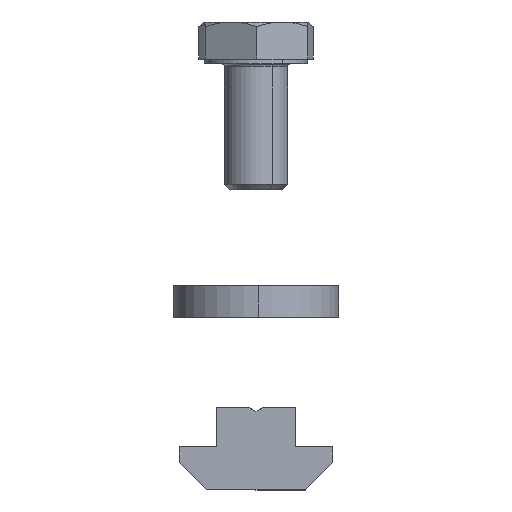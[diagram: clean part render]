
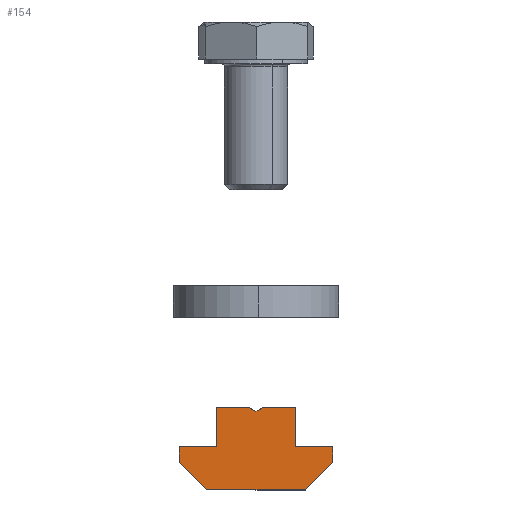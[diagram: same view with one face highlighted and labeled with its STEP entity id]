
A CAD part, left-side view. The second image highlights one B-rep face of the part: STEP entity #154.
In plain terms, the highlighted planar face has unit normal (-1, 0, 0).
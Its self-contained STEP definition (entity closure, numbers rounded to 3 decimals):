
#78 = CARTESIAN_POINT ( 'NONE',  ( 0.401, -11.054, -5.457 ) ) ;
#99 = DIRECTION ( 'NONE',  ( 0., 0., -1. ) ) ;
#112 = CARTESIAN_POINT ( 'NONE',  ( 0.401, -1.304, -6.063 ) ) ;
#113 = CARTESIAN_POINT ( 'NONE',  ( 0.401, -1.304, -0.988 ) ) ;
#128 = CARTESIAN_POINT ( 'NONE',  ( 0.401, -11.054, -7.457 ) ) ;
#131 = DIRECTION ( 'NONE',  ( 0., -0.866, 0.5 ) ) ;
#142 = DIRECTION ( 'NONE',  ( 0., 1., 0. ) ) ;
#154 = ADVANCED_FACE ( 'NONE', ( #2558 ), #290, .T. ) ;
#173 = ORIENTED_EDGE ( 'NONE', *, *, #2189, .T. ) ;
#181 = EDGE_CURVE ( 'NONE', #1968, #2430, #942, .T. ) ;
#204 = ORIENTED_EDGE ( 'NONE', *, *, #2236, .T. ) ;
#255 = LINE ( 'NONE', #1680, #2152 ) ;
#285 = ORIENTED_EDGE ( 'NONE', *, *, #1402, .F. ) ;
#290 = PLANE ( 'NONE',  #2212 ) ;
#370 = CARTESIAN_POINT ( 'NONE',  ( 0.401, -1.304, -0.988 ) ) ;
#371 = VECTOR ( 'NONE', #2585, 1000. ) ;
#378 = CARTESIAN_POINT ( 'NONE',  ( 0.401, -2.224, -0.457 ) ) ;
#388 = ORIENTED_EDGE ( 'NONE', *, *, #1690, .F. ) ;
#391 = ORIENTED_EDGE ( 'NONE', *, *, #181, .T. ) ;
#439 = EDGE_CURVE ( 'NONE', #2156, #2562, #1192, .T. ) ;
#440 = VERTEX_POINT ( 'NONE', #1806 ) ;
#464 = LINE ( 'NONE', #920, #1672 ) ;
#491 = DIRECTION ( 'NONE',  ( 0., -1., 0. ) ) ;
#591 = CARTESIAN_POINT ( 'NONE',  ( 0.401, 8.446, -7.457 ) ) ;
#613 = DIRECTION ( 'NONE',  ( 0., 0., 1. ) ) ;
#640 = ORIENTED_EDGE ( 'NONE', *, *, #643, .F. ) ;
#643 = EDGE_CURVE ( 'NONE', #909, #440, #2559, .T. ) ;
#667 = VECTOR ( 'NONE', #2016, 1000. ) ;
#668 = DIRECTION ( 'NONE',  ( 0., 0., 1. ) ) ;
#712 = VECTOR ( 'NONE', #2540, 1000. ) ;
#725 = VERTEX_POINT ( 'NONE', #113 ) ;
#805 = VERTEX_POINT ( 'NONE', #1144 ) ;
#808 = ORIENTED_EDGE ( 'NONE', *, *, #2393, .T. ) ;
#854 = ORIENTED_EDGE ( 'NONE', *, *, #1779, .T. ) ;
#909 = VERTEX_POINT ( 'NONE', #2418 ) ;
#920 = CARTESIAN_POINT ( 'NONE',  ( 0.401, 3.696, -6.063 ) ) ;
#942 = LINE ( 'NONE', #1939, #1701 ) ;
#954 = CARTESIAN_POINT ( 'NONE',  ( 0.401, 4.946, -10.957 ) ) ;
#990 = DIRECTION ( 'NONE',  ( 0., -0.707, 0.707 ) ) ;
#1113 = CARTESIAN_POINT ( 'NONE',  ( 0.401, -6.304, -0.457 ) ) ;
#1124 = CARTESIAN_POINT ( 'NONE',  ( 0.401, -0.384, -0.457 ) ) ;
#1134 = LINE ( 'NONE', #1736, #712 ) ;
#1144 = CARTESIAN_POINT ( 'NONE',  ( 0.401, 3.696, -5.457 ) ) ;
#1154 = CARTESIAN_POINT ( 'NONE',  ( 0.401, 8.446, -5.457 ) ) ;
#1182 = LINE ( 'NONE', #378, #1892 ) ;
#1192 = LINE ( 'NONE', #2005, #1499 ) ;
#1193 = CARTESIAN_POINT ( 'NONE',  ( 0.401, -7.554, -10.957 ) ) ;
#1197 = LINE ( 'NONE', #1437, #2232 ) ;
#1218 = DIRECTION ( 'NONE',  ( 0., 1., 0. ) ) ;
#1277 = VERTEX_POINT ( 'NONE', #78 ) ;
#1347 = ORIENTED_EDGE ( 'NONE', *, *, #439, .T. ) ;
#1368 = EDGE_CURVE ( 'NONE', #2562, #805, #464, .T. ) ;
#1402 = EDGE_CURVE ( 'NONE', #725, #2089, #1182, .T. ) ;
#1410 = EDGE_LOOP ( 'NONE', ( #854, #808, #285, #388, #1347, #2588, #1753, #391, #1707, #640, #1762, #204, #173 ) ) ;
#1413 = DIRECTION ( 'NONE',  ( 0., 0.707, 0.707 ) ) ;
#1437 = CARTESIAN_POINT ( 'NONE',  ( 0.401, -11.054, -6.063 ) ) ;
#1461 = VECTOR ( 'NONE', #668, 1000. ) ;
#1481 = CARTESIAN_POINT ( 'NONE',  ( 0.401, -6.304, -5.457 ) ) ;
#1499 = VECTOR ( 'NONE', #1218, 1000. ) ;
#1512 = LINE ( 'NONE', #1947, #2488 ) ;
#1528 = DIRECTION ( 'NONE',  ( -1., 0., 0. ) ) ;
#1560 = DIRECTION ( 'NONE',  ( 0., 0., -1. ) ) ;
#1600 = LINE ( 'NONE', #591, #2149 ) ;
#1628 = LINE ( 'NONE', #2185, #1461 ) ;
#1672 = VECTOR ( 'NONE', #99, 1000. ) ;
#1680 = CARTESIAN_POINT ( 'NONE',  ( 0.401, -1.304, -0.457 ) ) ;
#1690 = EDGE_CURVE ( 'NONE', #2156, #725, #2199, .T. ) ;
#1701 = VECTOR ( 'NONE', #1560, 1000. ) ;
#1707 = ORIENTED_EDGE ( 'NONE', *, *, #1718, .F. ) ;
#1712 = CARTESIAN_POINT ( 'NONE',  ( 0.401, 3.696, -0.457 ) ) ;
#1718 = EDGE_CURVE ( 'NONE', #440, #2430, #1600, .T. ) ;
#1719 = EDGE_CURVE ( 'NONE', #909, #2066, #2218, .T. ) ;
#1736 = CARTESIAN_POINT ( 'NONE',  ( 0.401, -1.304, -5.457 ) ) ;
#1753 = ORIENTED_EDGE ( 'NONE', *, *, #2204, .T. ) ;
#1762 = ORIENTED_EDGE ( 'NONE', *, *, #1719, .T. ) ;
#1773 = VECTOR ( 'NONE', #990, 1000. ) ;
#1779 = EDGE_CURVE ( 'NONE', #2503, #2129, #1628, .T. ) ;
#1806 = CARTESIAN_POINT ( 'NONE',  ( 0.401, 4.946, -10.957 ) ) ;
#1892 = VECTOR ( 'NONE', #131, 1000. ) ;
#1939 = CARTESIAN_POINT ( 'NONE',  ( 0.401, 8.446, -6.063 ) ) ;
#1947 = CARTESIAN_POINT ( 'NONE',  ( 0.401, -1.304, -5.457 ) ) ;
#1968 = VERTEX_POINT ( 'NONE', #1154 ) ;
#2005 = CARTESIAN_POINT ( 'NONE',  ( 0.401, -1.304, -0.457 ) ) ;
#2016 = DIRECTION ( 'NONE',  ( 0., -0.866, -0.5 ) ) ;
#2066 = VERTEX_POINT ( 'NONE', #128 ) ;
#2089 = VERTEX_POINT ( 'NONE', #2350 ) ;
#2129 = VERTEX_POINT ( 'NONE', #1113 ) ;
#2149 = VECTOR ( 'NONE', #1413, 1000. ) ;
#2152 = VECTOR ( 'NONE', #2312, 1000. ) ;
#2156 = VERTEX_POINT ( 'NONE', #1124 ) ;
#2185 = CARTESIAN_POINT ( 'NONE',  ( 0.401, -6.304, -6.063 ) ) ;
#2189 = EDGE_CURVE ( 'NONE', #1277, #2503, #1134, .T. ) ;
#2199 = LINE ( 'NONE', #370, #667 ) ;
#2204 = EDGE_CURVE ( 'NONE', #805, #1968, #1512, .T. ) ;
#2212 = AXIS2_PLACEMENT_3D ( 'NONE', #112, #1528, #491 ) ;
#2218 = LINE ( 'NONE', #1193, #1773 ) ;
#2232 = VECTOR ( 'NONE', #613, 1000. ) ;
#2236 = EDGE_CURVE ( 'NONE', #2066, #1277, #1197, .T. ) ;
#2312 = DIRECTION ( 'NONE',  ( 0., 1., 0. ) ) ;
#2350 = CARTESIAN_POINT ( 'NONE',  ( 0.401, -2.224, -0.457 ) ) ;
#2393 = EDGE_CURVE ( 'NONE', #2129, #2089, #255, .T. ) ;
#2418 = CARTESIAN_POINT ( 'NONE',  ( 0.401, -7.554, -10.957 ) ) ;
#2430 = VERTEX_POINT ( 'NONE', #2496 ) ;
#2488 = VECTOR ( 'NONE', #142, 1000. ) ;
#2496 = CARTESIAN_POINT ( 'NONE',  ( 0.401, 8.446, -7.457 ) ) ;
#2503 = VERTEX_POINT ( 'NONE', #1481 ) ;
#2540 = DIRECTION ( 'NONE',  ( 0., 1., 0. ) ) ;
#2558 = FACE_OUTER_BOUND ( 'NONE', #1410, .T. ) ;
#2559 = LINE ( 'NONE', #954, #371 ) ;
#2562 = VERTEX_POINT ( 'NONE', #1712 ) ;
#2585 = DIRECTION ( 'NONE',  ( 0., 1., 0. ) ) ;
#2588 = ORIENTED_EDGE ( 'NONE', *, *, #1368, .T. ) ;
